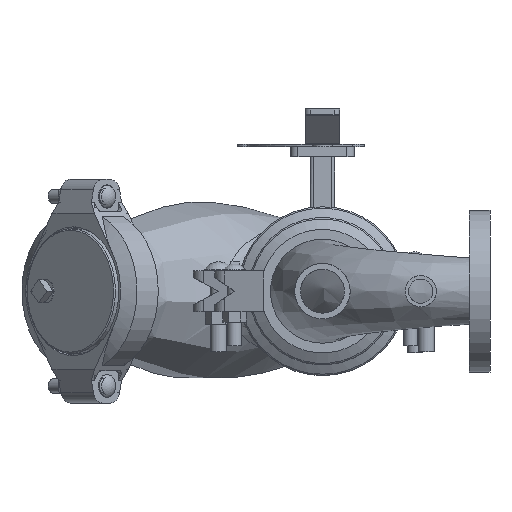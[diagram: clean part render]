
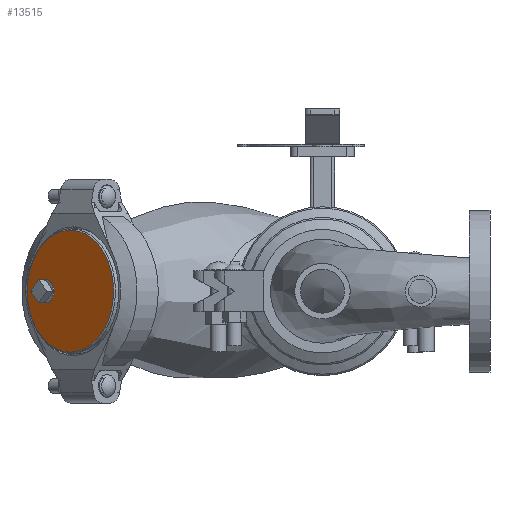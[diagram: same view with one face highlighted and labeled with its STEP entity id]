
A CAD part, front view. The second image highlights one B-rep face of the part: STEP entity #13515.
In plain terms, the highlighted planar face has unit normal (-0.707, -0.707, 0) as drawn and (1, 0, 0) by its records, which use the part's own axes.
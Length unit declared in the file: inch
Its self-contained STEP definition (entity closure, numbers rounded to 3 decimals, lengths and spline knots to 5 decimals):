
#2683=FACE_BOUND('',#3841,.T.);
#3057=FACE_OUTER_BOUND('',#3840,.T.);
#3840=EDGE_LOOP('',(#9706,#9707));
#3841=EDGE_LOOP('',(#9708));
#4637=CIRCLE('',#14843,0.5);
#4645=CIRCLE('',#14854,2.6375);
#4646=CIRCLE('',#14855,2.6375);
#5576=VERTEX_POINT('',#24938);
#5584=VERTEX_POINT('',#24959);
#5585=VERTEX_POINT('',#24960);
#7083=EDGE_CURVE('',#5576,#5576,#4637,.T.);
#7092=EDGE_CURVE('',#5584,#5585,#4645,.T.);
#7093=EDGE_CURVE('',#5585,#5584,#4646,.T.);
#9706=ORIENTED_EDGE('',*,*,#7092,.T.);
#9707=ORIENTED_EDGE('',*,*,#7093,.T.);
#9708=ORIENTED_EDGE('',*,*,#7083,.T.);
#12227=PLANE('',#14857);
#13515=ADVANCED_FACE('',(#3057,#2683),#12227,.T.);
#14843=AXIS2_PLACEMENT_3D('',#24940,#17264,#17265);
#14854=AXIS2_PLACEMENT_3D('',#24961,#17287,#17288);
#14855=AXIS2_PLACEMENT_3D('',#24962,#17289,#17290);
#14857=AXIS2_PLACEMENT_3D('',#24964,#17293,#17294);
#17264=DIRECTION('center_axis',(-1.,0.,0.));
#17265=DIRECTION('ref_axis',(0.,0.,1.));
#17287=DIRECTION('center_axis',(1.,0.,0.));
#17288=DIRECTION('ref_axis',(0.,0.,-1.));
#17289=DIRECTION('center_axis',(1.,0.,0.));
#17290=DIRECTION('ref_axis',(0.,0.,-1.));
#17293=DIRECTION('center_axis',(1.,0.,0.));
#17294=DIRECTION('ref_axis',(0.,0.,-1.));
#24938=CARTESIAN_POINT('',(1.13,1.5,-0.5));
#24940=CARTESIAN_POINT('Origin',(1.13,1.5,0.));
#24959=CARTESIAN_POINT('',(1.13,2.6375,0.));
#24960=CARTESIAN_POINT('',(1.13,0.,2.6375));
#24961=CARTESIAN_POINT('Origin',(1.13,0.,0.));
#24962=CARTESIAN_POINT('Origin',(1.13,0.,0.));
#24964=CARTESIAN_POINT('Origin',(1.13,0.,0.));
